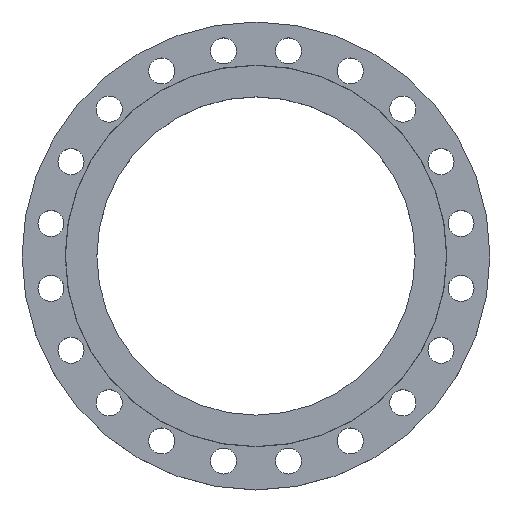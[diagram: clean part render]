
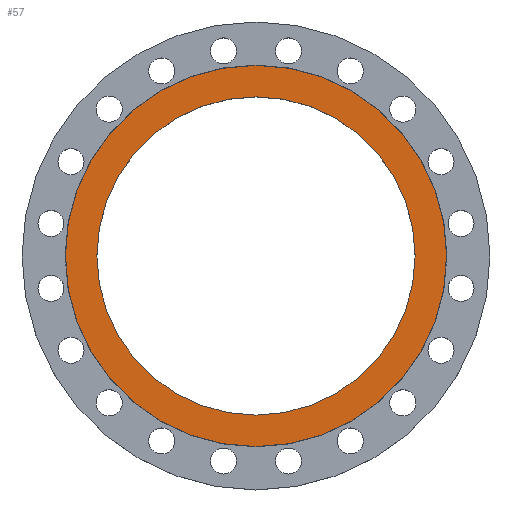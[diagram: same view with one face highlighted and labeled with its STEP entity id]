
A CAD part, top view. The second image highlights one B-rep face of the part: STEP entity #57.
In plain terms, the highlighted planar face has unit normal (0, 0, 1).
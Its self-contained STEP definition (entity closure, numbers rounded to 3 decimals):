
#39 = DIRECTION ( 'NONE',  ( 1., 0., 0. ) ) ;
#42 = EDGE_CURVE ( 'NONE', #140, #1209, #558, .T. ) ;
#49 = DIRECTION ( 'NONE',  ( -1., 0., 0. ) ) ;
#57 = ADVANCED_FACE ( 'NONE', ( #938, #1512 ), #192, .T. ) ;
#140 = VERTEX_POINT ( 'NONE', #1827 ) ;
#156 = CARTESIAN_POINT ( 'NONE',  ( 0., 0., 0. ) ) ;
#160 = CIRCLE ( 'NONE', #371, 256.75 ) ;
#192 = PLANE ( 'NONE',  #1893 ) ;
#243 = ORIENTED_EDGE ( 'NONE', *, *, #1314, .F. ) ;
#262 = ORIENTED_EDGE ( 'NONE', *, *, #1777, .F. ) ;
#316 = EDGE_LOOP ( 'NONE', ( #1044, #243 ) ) ;
#325 = DIRECTION ( 'NONE',  ( 1., 0., 0. ) ) ;
#340 = DIRECTION ( 'NONE',  ( -1., 0., 0. ) ) ;
#371 = AXIS2_PLACEMENT_3D ( 'NONE', #156, #747, #1331 ) ;
#499 = CIRCLE ( 'NONE', #1000, 307.5 ) ;
#554 = AXIS2_PLACEMENT_3D ( 'NONE', #1078, #1654, #340 ) ;
#558 = CIRCLE ( 'NONE', #554, 307.5 ) ;
#583 = EDGE_LOOP ( 'NONE', ( #262, #1648 ) ) ;
#673 = CARTESIAN_POINT ( 'NONE',  ( 256.75, 0., 0. ) ) ;
#722 = CARTESIAN_POINT ( 'NONE',  ( -307.5, 0., 0. ) ) ;
#747 = DIRECTION ( 'NONE',  ( 0., 0., 1. ) ) ;
#785 = CARTESIAN_POINT ( 'NONE',  ( 0., 0., 0. ) ) ;
#793 = CARTESIAN_POINT ( 'NONE',  ( 0., 0., 0. ) ) ;
#922 = AXIS2_PLACEMENT_3D ( 'NONE', #1061, #1636, #325 ) ;
#924 = CIRCLE ( 'NONE', #922, 256.75 ) ;
#938 = FACE_BOUND ( 'NONE', #316, .T. ) ;
#1000 = AXIS2_PLACEMENT_3D ( 'NONE', #793, #1373, #49 ) ;
#1044 = ORIENTED_EDGE ( 'NONE', *, *, #1628, .F. ) ;
#1061 = CARTESIAN_POINT ( 'NONE',  ( 0., 0., 0. ) ) ;
#1078 = CARTESIAN_POINT ( 'NONE',  ( 0., 0., 0. ) ) ;
#1162 = CARTESIAN_POINT ( 'NONE',  ( -256.75, 0., 0. ) ) ;
#1209 = VERTEX_POINT ( 'NONE', #722 ) ;
#1314 = EDGE_CURVE ( 'NONE', #1547, #1479, #924, .T. ) ;
#1331 = DIRECTION ( 'NONE',  ( 1., 0., 0. ) ) ;
#1365 = DIRECTION ( 'NONE',  ( 0., 0., 1. ) ) ;
#1373 = DIRECTION ( 'NONE',  ( 0., 0., -1. ) ) ;
#1479 = VERTEX_POINT ( 'NONE', #673 ) ;
#1512 = FACE_OUTER_BOUND ( 'NONE', #583, .T. ) ;
#1547 = VERTEX_POINT ( 'NONE', #1162 ) ;
#1628 = EDGE_CURVE ( 'NONE', #1479, #1547, #160, .T. ) ;
#1636 = DIRECTION ( 'NONE',  ( 0., 0., 1. ) ) ;
#1648 = ORIENTED_EDGE ( 'NONE', *, *, #42, .F. ) ;
#1654 = DIRECTION ( 'NONE',  ( 0., 0., -1. ) ) ;
#1777 = EDGE_CURVE ( 'NONE', #1209, #140, #499, .T. ) ;
#1827 = CARTESIAN_POINT ( 'NONE',  ( 307.5, 0., 0. ) ) ;
#1893 = AXIS2_PLACEMENT_3D ( 'NONE', #785, #1365, #39 ) ;
